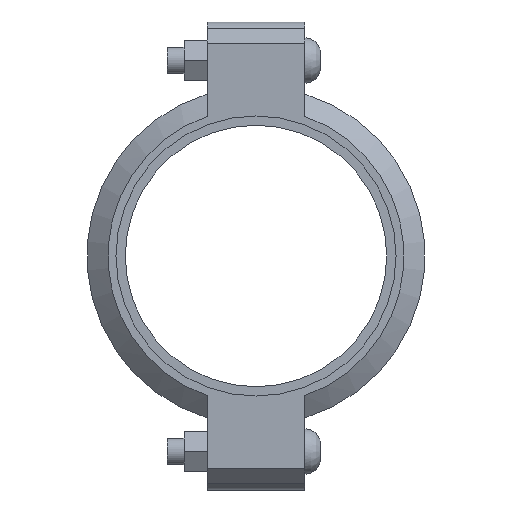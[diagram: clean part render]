
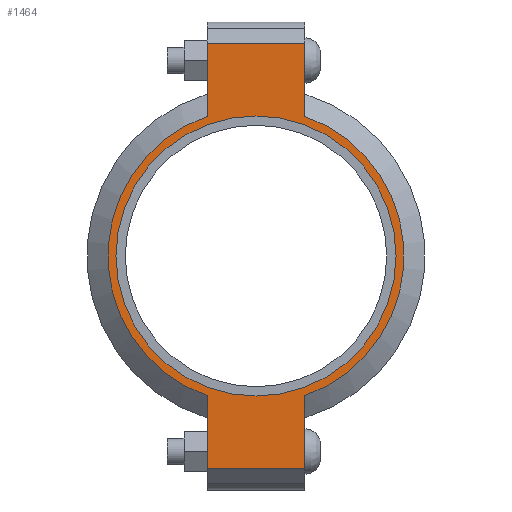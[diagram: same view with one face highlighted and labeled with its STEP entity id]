
A CAD part, left-side view. The second image highlights one B-rep face of the part: STEP entity #1464.
In plain terms, the highlighted planar face has unit normal (-1, 0, 0) as drawn and (0, 0, 1) by its records, which use the part's own axes.
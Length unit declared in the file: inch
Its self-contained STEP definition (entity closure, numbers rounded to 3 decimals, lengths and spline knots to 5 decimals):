
#144=LINE('',#2521,#235);
#152=LINE('',#2557,#243);
#159=LINE('',#2578,#250);
#168=LINE('',#2610,#259);
#169=LINE('',#2614,#260);
#170=LINE('',#2616,#261);
#235=VECTOR('',#2039,0.3937);
#243=VECTOR('',#2055,0.3937);
#250=VECTOR('',#2074,0.3937);
#259=VECTOR('',#2099,0.3937);
#260=VECTOR('',#2104,0.3937);
#261=VECTOR('',#2105,0.3937);
#313=FACE_BOUND('',#473,.T.);
#377=FACE_OUTER_BOUND('',#472,.T.);
#472=EDGE_LOOP('',(#1199,#1200,#1201,#1202,#1203,#1204,#1205,#1206));
#473=EDGE_LOOP('',(#1207));
#570=CIRCLE('',#1707,3.5);
#571=CIRCLE('',#1708,3.5);
#572=CIRCLE('',#1709,3.3125);
#675=VERTEX_POINT('',#2518);
#676=VERTEX_POINT('',#2520);
#687=VERTEX_POINT('',#2552);
#688=VERTEX_POINT('',#2556);
#695=VERTEX_POINT('',#2575);
#696=VERTEX_POINT('',#2577);
#706=VERTEX_POINT('',#2613);
#707=VERTEX_POINT('',#2615);
#708=VERTEX_POINT('',#2618);
#839=EDGE_CURVE('',#676,#675,#144,.T.);
#853=EDGE_CURVE('',#688,#687,#152,.T.);
#863=EDGE_CURVE('',#696,#695,#159,.T.);
#878=EDGE_CURVE('',#688,#675,#168,.T.);
#879=EDGE_CURVE('',#687,#696,#570,.T.);
#880=EDGE_CURVE('',#706,#695,#169,.T.);
#881=EDGE_CURVE('',#706,#707,#170,.T.);
#882=EDGE_CURVE('',#707,#676,#571,.T.);
#883=EDGE_CURVE('',#708,#708,#572,.T.);
#1199=ORIENTED_EDGE('',*,*,#878,.F.);
#1200=ORIENTED_EDGE('',*,*,#853,.T.);
#1201=ORIENTED_EDGE('',*,*,#879,.T.);
#1202=ORIENTED_EDGE('',*,*,#863,.T.);
#1203=ORIENTED_EDGE('',*,*,#880,.F.);
#1204=ORIENTED_EDGE('',*,*,#881,.T.);
#1205=ORIENTED_EDGE('',*,*,#882,.T.);
#1206=ORIENTED_EDGE('',*,*,#839,.T.);
#1207=ORIENTED_EDGE('',*,*,#883,.T.);
#1318=PLANE('',#1706);
#1464=ADVANCED_FACE('',(#377,#313),#1318,.T.);
#1706=AXIS2_PLACEMENT_3D('',#2611,#2100,#2101);
#1707=AXIS2_PLACEMENT_3D('',#2612,#2102,#2103);
#1708=AXIS2_PLACEMENT_3D('',#2617,#2106,#2107);
#1709=AXIS2_PLACEMENT_3D('',#2619,#2108,#2109);
#2039=DIRECTION('',(-1.,0.,0.));
#2055=DIRECTION('',(1.,0.,0.));
#2074=DIRECTION('',(1.,0.,0.));
#2099=DIRECTION('',(0.,1.,0.));
#2100=DIRECTION('center_axis',(0.,0.,1.));
#2101=DIRECTION('ref_axis',(1.,0.,0.));
#2102=DIRECTION('center_axis',(0.,0.,1.));
#2103=DIRECTION('ref_axis',(-1.,0.,0.));
#2104=DIRECTION('',(0.,-1.,0.));
#2105=DIRECTION('',(-1.,0.,0.));
#2106=DIRECTION('center_axis',(0.,0.,1.));
#2107=DIRECTION('ref_axis',(-1.,0.,0.));
#2108=DIRECTION('center_axis',(0.,0.,-1.));
#2109=DIRECTION('ref_axis',(-1.,0.,0.));
#2518=CARTESIAN_POINT('',(-5.035,1.156,1.065));
#2520=CARTESIAN_POINT('',(-3.30358,1.156,1.065));
#2521=CARTESIAN_POINT('',(-5.535,1.156,1.065));
#2552=CARTESIAN_POINT('',(-3.30358,-1.156,1.065));
#2556=CARTESIAN_POINT('',(-5.035,-1.156,1.065));
#2557=CARTESIAN_POINT('',(5.535,-1.156,1.065));
#2575=CARTESIAN_POINT('',(5.035,-1.156,1.065));
#2577=CARTESIAN_POINT('',(3.30358,-1.156,1.065));
#2578=CARTESIAN_POINT('',(5.535,-1.156,1.065));
#2610=CARTESIAN_POINT('',(-5.035,0.578,1.065));
#2611=CARTESIAN_POINT('Origin',(0.,0.,1.065));
#2612=CARTESIAN_POINT('Origin',(0.,0.,1.065));
#2613=CARTESIAN_POINT('',(5.035,1.156,1.065));
#2614=CARTESIAN_POINT('',(5.035,-0.578,1.065));
#2615=CARTESIAN_POINT('',(3.30358,1.156,1.065));
#2616=CARTESIAN_POINT('',(-5.535,1.156,1.065));
#2617=CARTESIAN_POINT('Origin',(0.,0.,1.065));
#2618=CARTESIAN_POINT('',(3.3125,0.,1.065));
#2619=CARTESIAN_POINT('Origin',(0.,0.,1.065));
